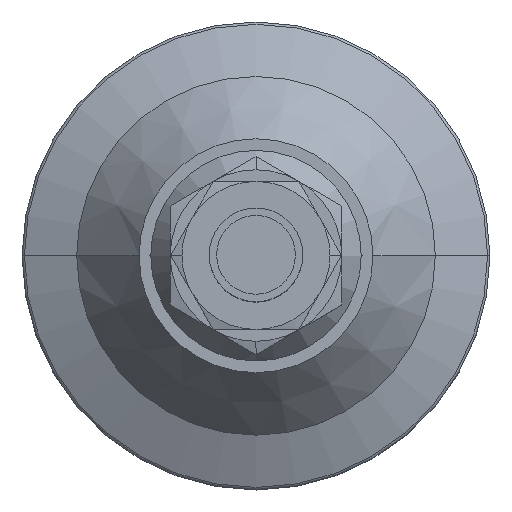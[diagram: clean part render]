
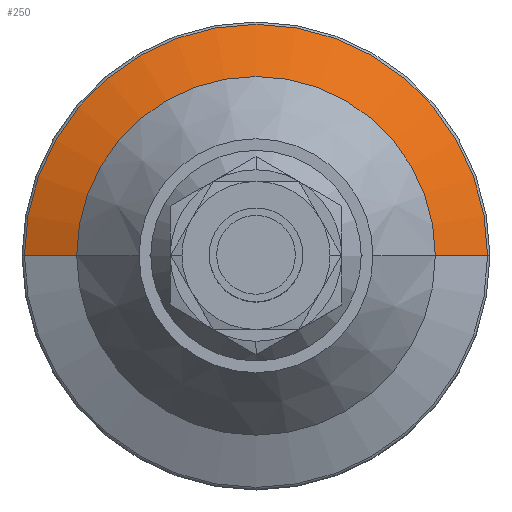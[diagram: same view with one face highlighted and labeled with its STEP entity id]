
A CAD part, top view. The second image highlights one B-rep face of the part: STEP entity #250.
In plain terms, the highlighted conical face has half-angle 66.905 degrees and reference radius 32.5 mm.
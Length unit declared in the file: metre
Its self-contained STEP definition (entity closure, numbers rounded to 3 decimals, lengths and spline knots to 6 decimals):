
#250=ADVANCED_FACE('102:25',(#437),#438,.T.);
#437=FACE_OUTER_BOUND('',#2672,.T.);
#438=CONICAL_SURFACE('',#2673,0.0325,1.168);
#2672=EDGE_LOOP('',(#3287,#3288,#3289,#3290));
#2673=AXIS2_PLACEMENT_3D('',#3291,#3292,#3293);
#3287=ORIENTED_EDGE('',*,*,#3532,.F.);
#3288=ORIENTED_EDGE('',*,*,#3533,.F.);
#3289=ORIENTED_EDGE('',*,*,#3534,.F.);
#3290=ORIENTED_EDGE('',*,*,#3535,.F.);
#3291=CARTESIAN_POINT('',(0.0,0.0,0.014449));
#3292=DIRECTION('',(-0.0,0.0,-1.0));
#3293=DIRECTION('',(-1.0,0.0,0.0));
#3532=EDGE_CURVE('',#3831,#3832,#3833,.T.);
#3533=EDGE_CURVE('102:37',#3834,#3831,#3835,.T.);
#3534=EDGE_CURVE('',#3836,#3834,#3837,.T.);
#3535=EDGE_CURVE('102:40',#3832,#3836,#3838,.T.);
#3831=VERTEX_POINT('',#4761);
#3832=VERTEX_POINT('',#4762);
#3833=LINE('',#4763,#4764);
#3834=VERTEX_POINT('',#4765);
#3835=CIRCLE('',#4766,0.023);
#3836=VERTEX_POINT('',#4767);
#3837=LINE('',#4768,#4769);
#3838=CIRCLE('',#4770,0.029696);
#4761=CARTESIAN_POINT('',(-0.023,0.,0.0185));
#4762=CARTESIAN_POINT('',(-0.029696,0.,0.015645));
#4763=CARTESIAN_POINT('',(-0.0325,0.,0.014449));
#4764=VECTOR('',#5061,1.0);
#4765=CARTESIAN_POINT('',(0.023,0.,0.0185));
#4766=AXIS2_PLACEMENT_3D('',#5062,#5063,#5064);
#4767=CARTESIAN_POINT('',(0.029696,0.,0.015645));
#4768=CARTESIAN_POINT('',(0.0325,0.,0.014449));
#4769=VECTOR('',#5065,1.0);
#4770=AXIS2_PLACEMENT_3D('',#5066,#5067,#5068);
#5061=DIRECTION('',(-0.92,0.,-0.392));
#5062=CARTESIAN_POINT('',(0.0,0.0,0.0185));
#5063=DIRECTION('',(0.0,0.0,1.0));
#5064=DIRECTION('',(1.0,0.0,0.0));
#5065=DIRECTION('',(-0.92,0.,0.392));
#5066=CARTESIAN_POINT('',(0.0,0.0,0.015645));
#5067=DIRECTION('',(0.0,0.0,-1.0));
#5068=DIRECTION('',(1.0,0.0,0.0));
